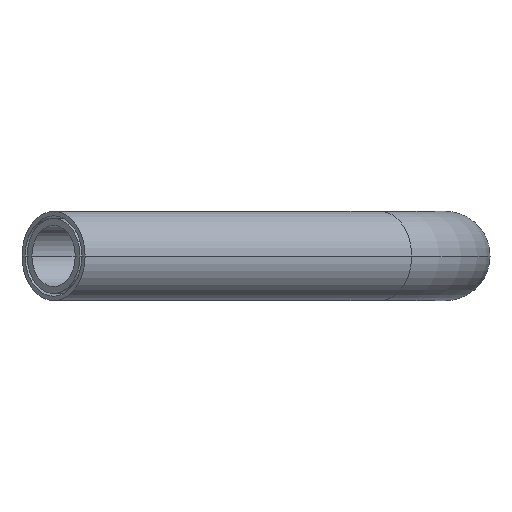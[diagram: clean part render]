
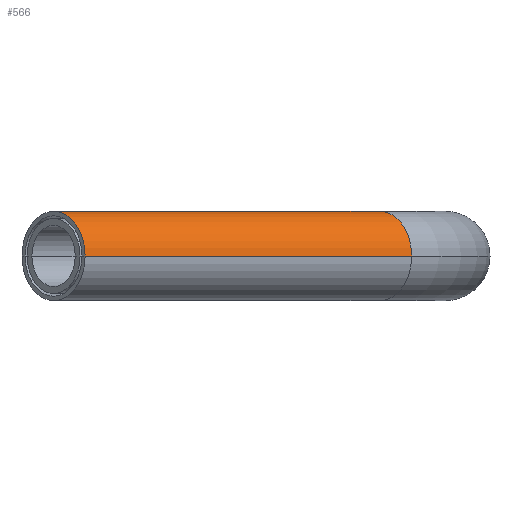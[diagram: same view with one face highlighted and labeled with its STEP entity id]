
A CAD part, left-side view. The second image highlights one B-rep face of the part: STEP entity #566.
In plain terms, the highlighted cylindrical face has radius 37.5 mm (diameter 75 mm), a partial arc.
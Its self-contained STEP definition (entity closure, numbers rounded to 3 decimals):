
#18 = CARTESIAN_POINT ( 'NONE',  ( -121.963, -62.103, -1.832 ) ) ;
#52 = EDGE_CURVE ( 'NONE', #112, #162, #377, .T. ) ;
#64 = DIRECTION ( 'NONE',  ( -0.707, 0.707, 0. ) ) ;
#81 = ORIENTED_EDGE ( 'NONE', *, *, #52, .T. ) ;
#87 = VECTOR ( 'NONE', #235, 1000. ) ;
#105 = DIRECTION ( 'NONE',  ( -0.707, 0.707, 0. ) ) ;
#112 = VERTEX_POINT ( 'NONE', #200 ) ;
#114 = CARTESIAN_POINT ( 'NONE',  ( -68.93, -9.07, -1.832 ) ) ;
#139 = DIRECTION ( 'NONE',  ( 0.707, -0.707, 0. ) ) ;
#155 = CIRCLE ( 'NONE', #885, 37.5 ) ;
#162 = VERTEX_POINT ( 'NONE', #220 ) ;
#183 = ORIENTED_EDGE ( 'NONE', *, *, #624, .F. ) ;
#200 = CARTESIAN_POINT ( 'NONE',  ( -68.93, -9.07, -1.832 ) ) ;
#204 = ORIENTED_EDGE ( 'NONE', *, *, #458, .F. ) ;
#218 = AXIS2_PLACEMENT_3D ( 'NONE', #689, #105, #888 ) ;
#220 = CARTESIAN_POINT ( 'NONE',  ( -343.348, 265.349, -1.832 ) ) ;
#233 = VECTOR ( 'NONE', #273, 1000. ) ;
#235 = DIRECTION ( 'NONE',  ( -0.707, 0.707, 0. ) ) ;
#240 = CARTESIAN_POINT ( 'NONE',  ( -396.381, 212.316, -1.832 ) ) ;
#273 = DIRECTION ( 'NONE',  ( -0.707, 0.707, 0. ) ) ;
#324 = DIRECTION ( 'NONE',  ( -0.707, -0.707, 0. ) ) ;
#368 = EDGE_CURVE ( 'NONE', #814, #979, #732, .T. ) ;
#377 = LINE ( 'NONE', #114, #233 ) ;
#382 = CARTESIAN_POINT ( 'NONE',  ( -95.446, -35.586, -1.832 ) ) ;
#425 = CARTESIAN_POINT ( 'NONE',  ( -369.865, 238.832, -1.832 ) ) ;
#458 = EDGE_CURVE ( 'NONE', #979, #162, #155, .T. ) ;
#480 = ORIENTED_EDGE ( 'NONE', *, *, #368, .F. ) ;
#566 = ADVANCED_FACE ( 'NONE', ( #1000 ), #923, .T. ) ;
#615 = AXIS2_PLACEMENT_3D ( 'NONE', #382, #139, #718 ) ;
#624 = EDGE_CURVE ( 'NONE', #112, #814, #1138, .T. ) ;
#689 = CARTESIAN_POINT ( 'NONE',  ( -95.446, -35.586, -1.832 ) ) ;
#718 = DIRECTION ( 'NONE',  ( 0., 0., -1. ) ) ;
#732 = LINE ( 'NONE', #1118, #87 ) ;
#777 = EDGE_LOOP ( 'NONE', ( #183, #81, #204, #480 ) ) ;
#814 = VERTEX_POINT ( 'NONE', #18 ) ;
#885 = AXIS2_PLACEMENT_3D ( 'NONE', #425, #64, #324 ) ;
#888 = DIRECTION ( 'NONE',  ( -0.707, -0.707, 0. ) ) ;
#923 = CYLINDRICAL_SURFACE ( 'NONE', #218, 37.5 ) ;
#979 = VERTEX_POINT ( 'NONE', #240 ) ;
#1000 = FACE_OUTER_BOUND ( 'NONE', #777, .T. ) ;
#1118 = CARTESIAN_POINT ( 'NONE',  ( -121.963, -62.103, -1.832 ) ) ;
#1138 = CIRCLE ( 'NONE', #615, 37.5 ) ;
